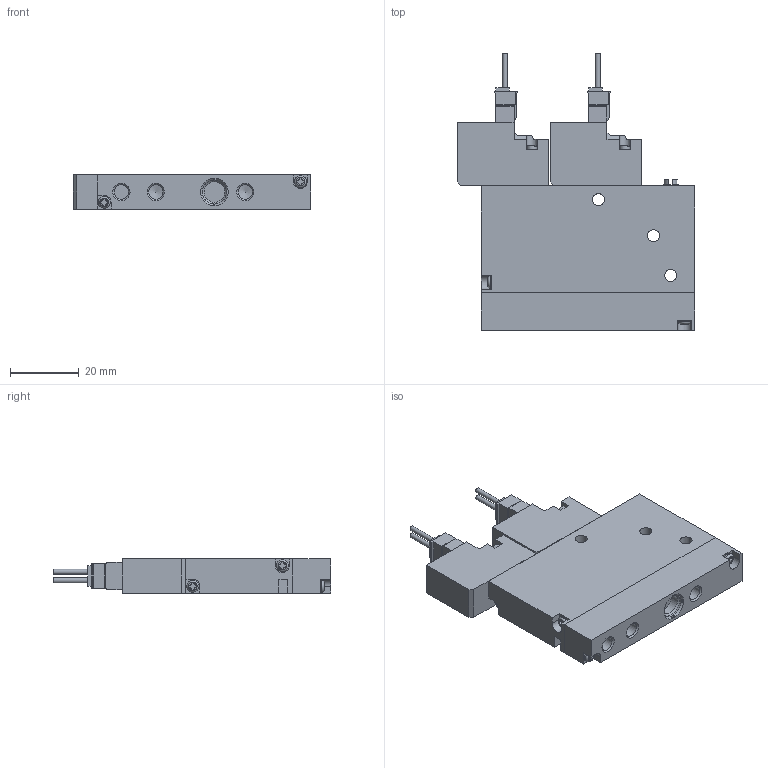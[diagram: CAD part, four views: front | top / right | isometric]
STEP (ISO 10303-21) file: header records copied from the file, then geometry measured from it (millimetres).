
FILE_DESCRIPTION(('STEP AP203'),'1');
FILE_NAME('BMPV42SZZ5A(B).stp','2025-04-30T01:02:02',(' '),(' '),'Spatial InterOp 3D',' ',' ');
FILE_SCHEMA(('CONFIG_CONTROL_DESIGN'));
Length unit declared in the file: millimetre
Products named in the file (4): BMPV42SZZ5A(B); VACUUM VALVE FUNCTION MPV42-A; UNIT-MPV42; MPV42-S10R-1
Assembly tree (4 placements, depth 2):
  BMPV42SZZ5A(B)
    VACUUM VALVE FUNCTION MPV42-A  x2
    UNIT-MPV42
    MPV42-S10R-1
Bounding box: 69 x 80.45 x 10 mm (x, y, z)
Volume: 34563.3 mm3; surface area: 13924.2 mm2
Topology: 4 solids, 4 shells, 332 faces, 872 edges, 572 vertices
Faces by surface type: plane 250, cylinder 61, cone 13, sphere 4, torus 4
Full cylindrical faces by diameter (mm): 1.4 x4, 1.8 x1, 2.2 x2, 3 x4, 3.5 x9, 4.134 x4, 5 x1, 6 x1, 7 x1
Entity records: 7080 total; most frequent: CARTESIAN_POINT 1367, DIRECTION 1134, ORIENTED_EDGE 1088, EDGE_CURVE 544, LINE 382, VECTOR 382, VERTEX_POINT 377, AXIS2_PLACEMENT_3D 376
